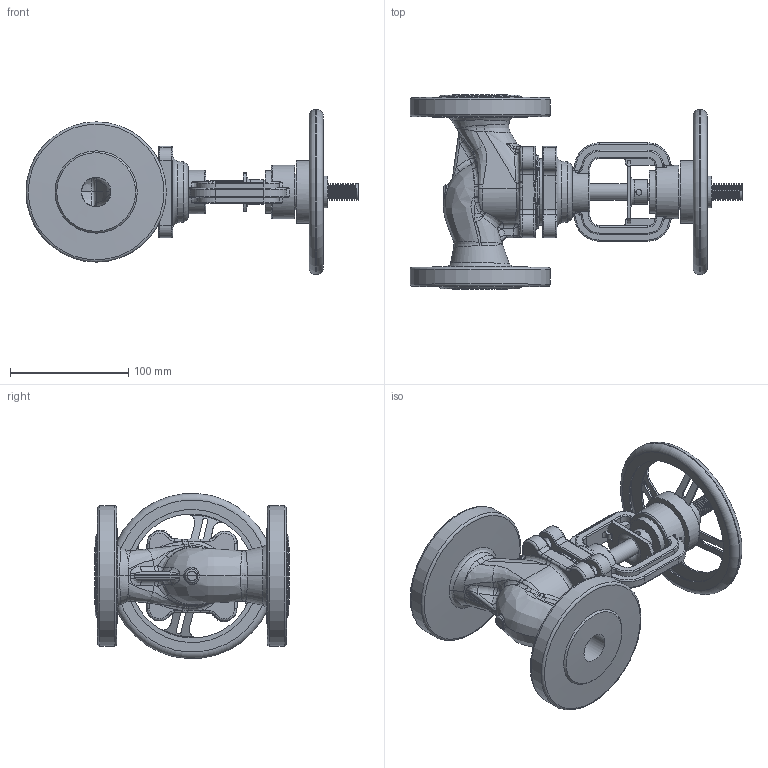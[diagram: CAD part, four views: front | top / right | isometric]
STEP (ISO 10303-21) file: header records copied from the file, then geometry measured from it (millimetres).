
FILE_DESCRIPTION(/* description */ ('STEP AP203'),/* implementation_level */ '2;1');
FILE_NAME(/* name */ '',/* time_stamp */ '2025-02-21T11:43:42+07:00',/* author */ ('Eva'),/* organization */ (''),/* preprocessor_version */ 'ST-DEVELOPER v20',/* originating_system */ 'Autodesk Inventor 2025',/* authorisation */ '');
FILE_SCHEMA (('AUTOMOTIVE_DESIGN { 1 0 10303 214 3 1 1 }'));
Products named in the file (7): 25; 25_1; 波纹管截止阀盖25; 波纹管25-32阀杆螺母; 波纹管25-32限位板; 波纹管阀杆25; 25-50手轮
Assembly tree (6 placements, depth 2):
  25
    25_1
    波纹管截止阀盖25
    波纹管25-32阀杆螺母
    波纹管25-32限位板
    波纹管阀杆25
    25-50手轮
Bounding box: 280.46 x 164.37 x 139.54 mm (x, y, z)
Volume: 801996.3 mm3; surface area: 197339.1 mm2
Topology: 6 solids, 6 shells, 670 faces, 1724 edges, 1045 vertices
Faces by surface type: bspline 222, cylinder 212, plane 127, torus 76, cone 28, sphere 5
Full cylindrical faces by diameter (mm): 5 x3, 6 x1, 10 x4, 11.709 x13, 12 x2, 14 x15, 15 x2, 18.5 x1, 21 x1, 22 x1, 24 x1, 25 x3, 27 x1, 28 x1, 30 x2, 36 x1, 37 x1, 38.2 x1, 43 x1, 45 x1, 53.051 x1, 56 x1, 62.4 x1, 112.466 x1, 118.5 x2, 136.987 x1, 139.787 x1
Entity records: 51196 total; most frequent: CARTESIAN_POINT 36459, ORIENTED_EDGE 3408, DIRECTION 2596, EDGE_CURVE 1704, AXIS2_PLACEMENT_3D 1079, VERTEX_POINT 1045, EDGE_LOOP 717, FACE_OUTER_BOUND 670
